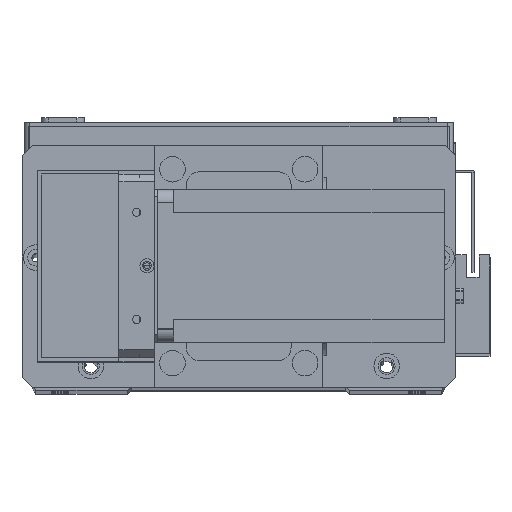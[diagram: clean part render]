
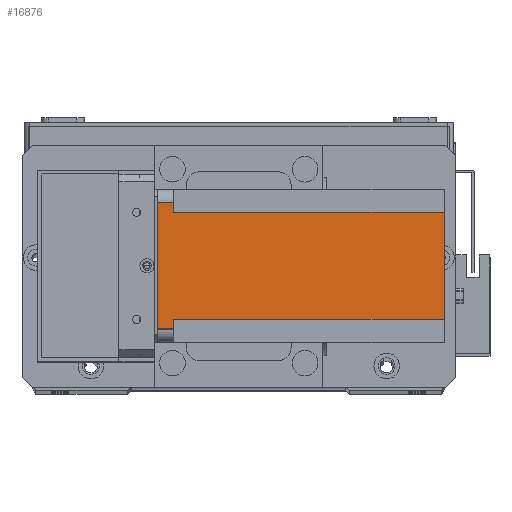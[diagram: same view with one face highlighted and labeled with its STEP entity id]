
A CAD part, top view. The second image highlights one B-rep face of the part: STEP entity #16876.
In plain terms, the highlighted planar face has unit normal (0, 0, 1) as drawn and (-1, 0, 0) by its records, which use the part's own axes.
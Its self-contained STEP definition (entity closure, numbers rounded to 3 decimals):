
#548 = CARTESIAN_POINT ( 'NONE',  ( 0., 9., -6.5 ) ) ;
#720 = CARTESIAN_POINT ( 'NONE',  ( 0., 51., -112.5 ) ) ;
#1696 = LINE ( 'NONE', #1763, #20309 ) ;
#1763 = CARTESIAN_POINT ( 'NONE',  ( 0., 5., -112.5 ) ) ;
#2160 = EDGE_CURVE ( 'NONE', #6685, #9832, #1696, .T. ) ;
#2277 = VECTOR ( 'NONE', #20753, 1000. ) ;
#2474 = VERTEX_POINT ( 'NONE', #548 ) ;
#2489 = AXIS2_PLACEMENT_3D ( 'NONE', #11093, #3990, #20975 ) ;
#2764 = VECTOR ( 'NONE', #9727, 1000. ) ;
#2985 = VECTOR ( 'NONE', #18877, 1000. ) ;
#2989 = ORIENTED_EDGE ( 'NONE', *, *, #4773, .F. ) ;
#3990 = DIRECTION ( 'NONE',  ( -1., 0., 0. ) ) ;
#4334 = CARTESIAN_POINT ( 'NONE',  ( 0., 55., 0. ) ) ;
#4497 = EDGE_CURVE ( 'NONE', #21097, #7944, #30791, .T. ) ;
#4773 = EDGE_CURVE ( 'NONE', #2474, #23684, #25455, .T. ) ;
#5856 = EDGE_CURVE ( 'NONE', #5861, #8820, #16674, .T. ) ;
#5861 = VERTEX_POINT ( 'NONE', #4334 ) ;
#6229 = CARTESIAN_POINT ( 'NONE',  ( 0., 60., -6.5 ) ) ;
#6399 = ORIENTED_EDGE ( 'NONE', *, *, #19381, .F. ) ;
#6685 = VERTEX_POINT ( 'NONE', #19797 ) ;
#6701 = CARTESIAN_POINT ( 'NONE',  ( 0., 51., -6.5 ) ) ;
#7944 = VERTEX_POINT ( 'NONE', #6701 ) ;
#8820 = VERTEX_POINT ( 'NONE', #12627 ) ;
#8862 = FACE_OUTER_BOUND ( 'NONE', #11955, .T. ) ;
#9727 = DIRECTION ( 'NONE',  ( 0., -1., 0. ) ) ;
#9832 = VERTEX_POINT ( 'NONE', #26948 ) ;
#9923 = VECTOR ( 'NONE', #10182, 1000. ) ;
#10139 = ORIENTED_EDGE ( 'NONE', *, *, #2160, .T. ) ;
#10182 = DIRECTION ( 'NONE',  ( 0., -1., 0. ) ) ;
#10387 = CARTESIAN_POINT ( 'NONE',  ( 0., 0., -6.5 ) ) ;
#11093 = CARTESIAN_POINT ( 'NONE',  ( 0., 0., -112.5 ) ) ;
#11863 = ORIENTED_EDGE ( 'NONE', *, *, #5856, .T. ) ;
#11949 = ORIENTED_EDGE ( 'NONE', *, *, #19435, .F. ) ;
#11955 = EDGE_LOOP ( 'NONE', ( #11949, #10139, #6399, #11863, #31307, #12029, #31116, #2989 ) ) ;
#12029 = ORIENTED_EDGE ( 'NONE', *, *, #4497, .F. ) ;
#12627 = CARTESIAN_POINT ( 'NONE',  ( 0., 55., -6.5 ) ) ;
#14848 = LINE ( 'NONE', #10387, #16387 ) ;
#16092 = PLANE ( 'NONE',  #2489 ) ;
#16387 = VECTOR ( 'NONE', #27278, 1000. ) ;
#16674 = LINE ( 'NONE', #28544, #2985 ) ;
#16876 = ADVANCED_FACE ( 'NONE', ( #8862 ), #16092, .T. ) ;
#17151 = EDGE_CURVE ( 'NONE', #21097, #23684, #30107, .T. ) ;
#17459 = DIRECTION ( 'NONE',  ( 0., 0., 1. ) ) ;
#18877 = DIRECTION ( 'NONE',  ( 0., 0., -1. ) ) ;
#19381 = EDGE_CURVE ( 'NONE', #5861, #9832, #22822, .T. ) ;
#19435 = EDGE_CURVE ( 'NONE', #6685, #2474, #14848, .T. ) ;
#19797 = CARTESIAN_POINT ( 'NONE',  ( 0., 5., -6.5 ) ) ;
#20118 = LINE ( 'NONE', #6229, #2277 ) ;
#20309 = VECTOR ( 'NONE', #28415, 1000. ) ;
#20753 = DIRECTION ( 'NONE',  ( 0., 1., 0. ) ) ;
#20975 = DIRECTION ( 'NONE',  ( 0., -1., 0. ) ) ;
#21097 = VERTEX_POINT ( 'NONE', #720 ) ;
#21353 = CARTESIAN_POINT ( 'NONE',  ( 0., 9., -112.5 ) ) ;
#22822 = LINE ( 'NONE', #27173, #9923 ) ;
#23564 = CARTESIAN_POINT ( 'NONE',  ( 0., 9., -112.5 ) ) ;
#23684 = VERTEX_POINT ( 'NONE', #23564 ) ;
#24345 = VECTOR ( 'NONE', #17459, 1000. ) ;
#24976 = EDGE_CURVE ( 'NONE', #7944, #8820, #20118, .T. ) ;
#25455 = LINE ( 'NONE', #21353, #29639 ) ;
#26140 = DIRECTION ( 'NONE',  ( 0., 0., -1. ) ) ;
#26948 = CARTESIAN_POINT ( 'NONE',  ( 0., 5., 0. ) ) ;
#27095 = CARTESIAN_POINT ( 'NONE',  ( 0., 51., -112.5 ) ) ;
#27173 = CARTESIAN_POINT ( 'NONE',  ( 0., 0., 0. ) ) ;
#27278 = DIRECTION ( 'NONE',  ( 0., 1., 0. ) ) ;
#28415 = DIRECTION ( 'NONE',  ( 0., 0., 1. ) ) ;
#28544 = CARTESIAN_POINT ( 'NONE',  ( 0., 55., -112.5 ) ) ;
#29128 = CARTESIAN_POINT ( 'NONE',  ( 0., 0., -112.5 ) ) ;
#29639 = VECTOR ( 'NONE', #26140, 1000. ) ;
#30107 = LINE ( 'NONE', #29128, #2764 ) ;
#30791 = LINE ( 'NONE', #27095, #24345 ) ;
#31116 = ORIENTED_EDGE ( 'NONE', *, *, #17151, .T. ) ;
#31307 = ORIENTED_EDGE ( 'NONE', *, *, #24976, .F. ) ;
